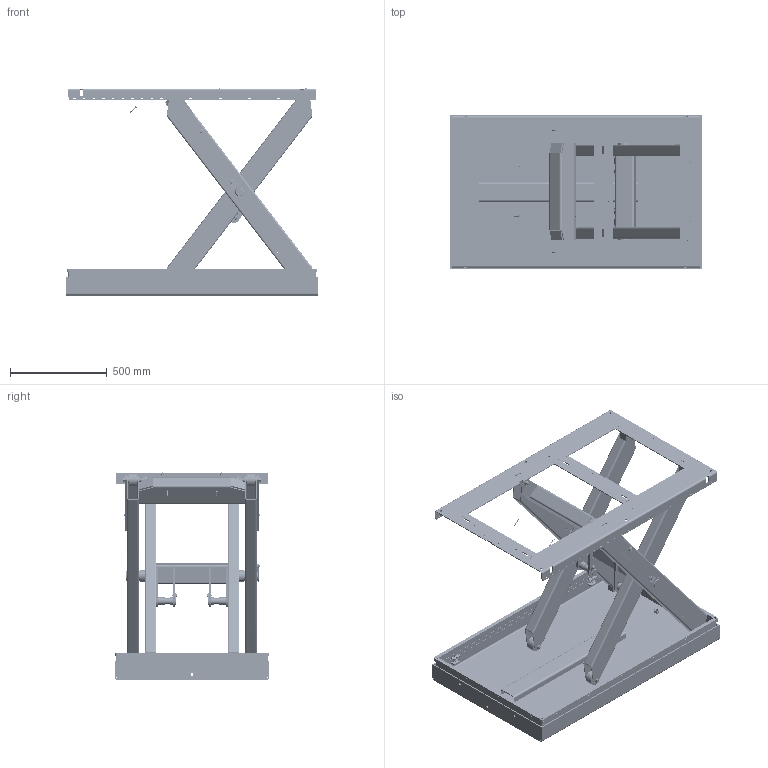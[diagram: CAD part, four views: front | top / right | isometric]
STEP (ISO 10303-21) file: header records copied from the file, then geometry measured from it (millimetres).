
FILE_DESCRIPTION(/* description */ ('Split Pin'),/* implementation_level */ '2;1');
FILE_NAME(/* name */ 'C:\Autodesk_VaultWork\Ritningar\Exporterade modeller\TL 3000 - (33560)\33560_topp.stp',/* time_stamp */ '2015-06-23T08:15:39+02:00',/* author */ ('HANVI'),/* organization */ (''),/* preprocessor_version */ 'ST-DEVELOPER v15.6',/* originating_system */ 'Autodesk Inventor 2015',/* authorisation */ '');
FILE_SCHEMA (('AUTOMOTIVE_DESIGN { 1 0 10303 214 3 1 1 }'));
Products named in the file (76): DIN EN ISO 1234 - 4x33 x 25 x 20; 83210; 83243; ISO 10511 - M14; ISO 4016 - M14 x 90; 36364; 35430; 44870; 45259; 36363-2; 36363-1; 33561; 33562-1; 45387; ISO 4014 - M8 x 40ISO; 41333-820; 33562-2; ISO 4032 - M16ISO; 33562; 80040-1230; 33566; 80060-368; 43013; 43030; 43031; 44249; 33563; 80040-1230_1; 33567; 610978; 611121; 611122; 43254; 43867C-TL2000; 33564; 42508C; 42509; 70025; 33048; 43216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
Bounding box: 1300 x 800.2 x 1071 mm (x, y, z)
Volume: 25379517.2 mm3; surface area: 10538220.7 mm2
Topology: 182 solids, 182 shells, 7262 faces, 18087 edges, 11328 vertices
Faces by surface type: plane 2934, cylinder 2147, cone 1149, bspline 502, torus 482, sphere 48
Full cylindrical faces by diameter (mm): 0.474 x2, 1 x4, 2.459 x8, 3 x4, 3.141 x4, 3.2 x4, 3.242 x4, 4 x14, 4.3 x4, 4.9 x2, 5 x8, 5.2 x6, 5.3 x4, 5.55 x6, 6.8 x6, 7.4 x12, 7.5 x4, 7.6 x4, 8 x16, 8.5 x4, 10 x6, 10.5 x8, 11 x2, 11.63 x8, 12 x4, 12.5 x6, 13 x6, 13.835 x1, 14 x8, 14.2 x16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
Entity records: 99963 total; most frequent: CARTESIAN_POINT 24707, DIRECTION 15263, ORIENTED_EDGE 15202, EDGE_CURVE 7600, AXIS2_PLACEMENT_3D 5348, VERTEX_POINT 5011, LINE 4567, VECTOR 4567
